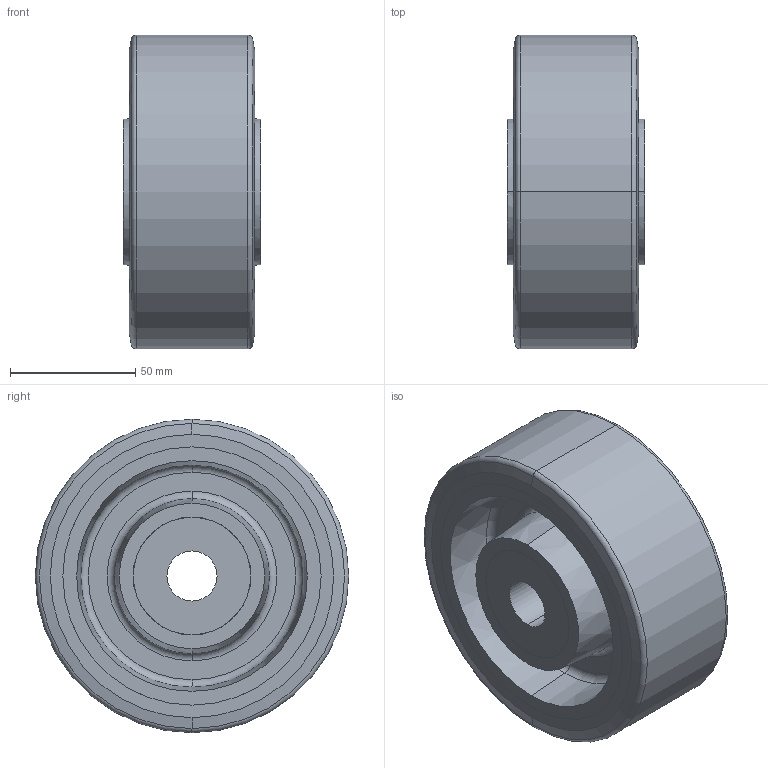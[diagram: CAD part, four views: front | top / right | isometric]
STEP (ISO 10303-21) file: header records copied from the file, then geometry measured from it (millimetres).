
FILE_DESCRIPTION (( 'STEP AP214' ), '1' );
FILE_NAME ('22887-125-K-A.step', '2024-10-28T09:26:59', ( '' ), ( '' ), 'SwSTEP 2.0', 'SolidWorks 2022', '' );
FILE_SCHEMA (( 'AUTOMOTIVE_DESIGN' ));
Length unit declared in the file: millimetre
Products named in the file (1): 22887-125-K-A
Bounding box: 55 x 125 x 125 mm (x, y, z)
Volume: 436299.8 mm3; surface area: 67304.2 mm2
Topology: 1 solids, 1 shells, 64 faces, 128 edges, 80 vertices
Faces by surface type: cylinder 24, plane 16, cone 12, torus 12
Entity records: 1976 total; most frequent: DIRECTION 350, CARTESIAN_POINT 273, ORIENTED_EDGE 256, AXIS2_PLACEMENT_3D 157, EDGE_CURVE 128, CIRCLE 92, VERTEX_POINT 80, EDGE_LOOP 80
